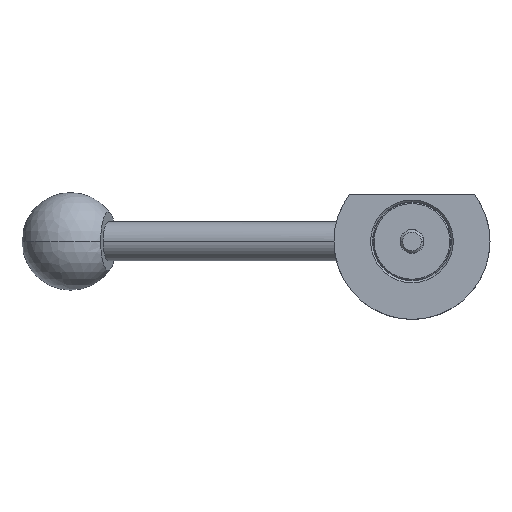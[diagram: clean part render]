
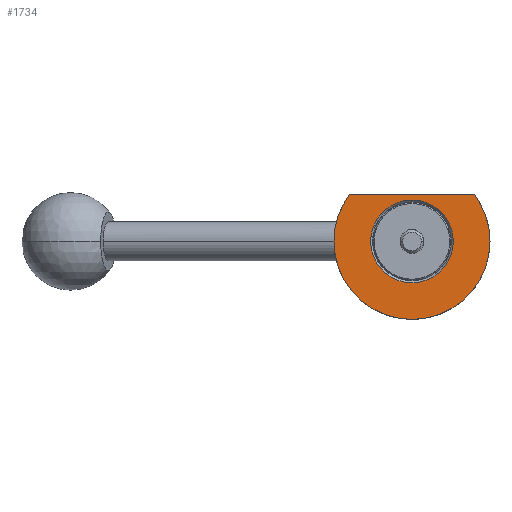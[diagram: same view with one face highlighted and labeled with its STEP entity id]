
A CAD part, front view. The second image highlights one B-rep face of the part: STEP entity #1734.
In plain terms, the highlighted planar face has unit normal (0, -1, 0).
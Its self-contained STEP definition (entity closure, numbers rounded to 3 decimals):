
#58 = DIRECTION ( 'NONE',  ( -1., 0., 0. ) ) ;
#70 = CARTESIAN_POINT ( 'NONE',  ( -10.6, -10., 11.999 ) ) ;
#90 = VECTOR ( 'NONE', #226, 1000. ) ;
#99 = FACE_OUTER_BOUND ( 'NONE', #1891, .T. ) ;
#159 = AXIS2_PLACEMENT_3D ( 'NONE', #829, #1737, #58 ) ;
#188 = DIRECTION ( 'NONE',  ( 0., 1., 0. ) ) ;
#226 = DIRECTION ( 'NONE',  ( -1., 0., 0. ) ) ;
#285 = ORIENTED_EDGE ( 'NONE', *, *, #807, .T. ) ;
#328 = EDGE_CURVE ( 'NONE', #1831, #1282, #702, .T. ) ;
#376 = DIRECTION ( 'NONE',  ( -1., 0., 0. ) ) ;
#524 = DIRECTION ( 'NONE',  ( 0., 1., 0. ) ) ;
#611 = ORIENTED_EDGE ( 'NONE', *, *, #1115, .F. ) ;
#693 = CARTESIAN_POINT ( 'NONE',  ( 0., -10., 0. ) ) ;
#702 = CIRCLE ( 'NONE', #1280, 20. ) ;
#719 = PLANE ( 'NONE',  #1848 ) ;
#733 = FACE_BOUND ( 'NONE', #1216, .T. ) ;
#800 = AXIS2_PLACEMENT_3D ( 'NONE', #1849, #2014, #1072 ) ;
#807 = EDGE_CURVE ( 'NONE', #1025, #1282, #1470, .T. ) ;
#816 = ORIENTED_EDGE ( 'NONE', *, *, #1388, .T. ) ;
#829 = CARTESIAN_POINT ( 'NONE',  ( 0., -10., 0. ) ) ;
#837 = DIRECTION ( 'NONE',  ( 0., 1., 0. ) ) ;
#879 = DIRECTION ( 'NONE',  ( -1., 0., 0. ) ) ;
#911 = AXIS2_PLACEMENT_3D ( 'NONE', #693, #837, #879 ) ;
#996 = AXIS2_PLACEMENT_3D ( 'NONE', #1927, #524, #376 ) ;
#1012 = CARTESIAN_POINT ( 'NONE',  ( -16.001, -10., 11.999 ) ) ;
#1025 = VERTEX_POINT ( 'NONE', #1568 ) ;
#1072 = DIRECTION ( 'NONE',  ( -1., 0., 0. ) ) ;
#1076 = CIRCLE ( 'NONE', #800, 20. ) ;
#1108 = ORIENTED_EDGE ( 'NONE', *, *, #1265, .T. ) ;
#1115 = EDGE_CURVE ( 'NONE', #1025, #1607, #1422, .T. ) ;
#1138 = ORIENTED_EDGE ( 'NONE', *, *, #328, .F. ) ;
#1155 = CARTESIAN_POINT ( 'NONE',  ( 20., -10., 0. ) ) ;
#1216 = EDGE_LOOP ( 'NONE', ( #1108, #816 ) ) ;
#1265 = EDGE_CURVE ( 'NONE', #2006, #1710, #1323, .T. ) ;
#1280 = AXIS2_PLACEMENT_3D ( 'NONE', #1412, #188, #1903 ) ;
#1282 = VERTEX_POINT ( 'NONE', #1012 ) ;
#1323 = CIRCLE ( 'NONE', #911, 10.6 ) ;
#1388 = EDGE_CURVE ( 'NONE', #1710, #2006, #1877, .T. ) ;
#1412 = CARTESIAN_POINT ( 'NONE',  ( 0., -10., 0. ) ) ;
#1422 = CIRCLE ( 'NONE', #159, 20. ) ;
#1463 = EDGE_CURVE ( 'NONE', #1607, #1831, #1076, .T. ) ;
#1470 = LINE ( 'NONE', #70, #90 ) ;
#1568 = CARTESIAN_POINT ( 'NONE',  ( 16.001, -10., 11.999 ) ) ;
#1607 = VERTEX_POINT ( 'NONE', #1155 ) ;
#1640 = DIRECTION ( 'NONE',  ( 1., 0., 0. ) ) ;
#1644 = ORIENTED_EDGE ( 'NONE', *, *, #1463, .F. ) ;
#1670 = CARTESIAN_POINT ( 'NONE',  ( -10.6, -10., 0. ) ) ;
#1701 = CARTESIAN_POINT ( 'NONE',  ( 10.6, -10., 0. ) ) ;
#1710 = VERTEX_POINT ( 'NONE', #1947 ) ;
#1734 = ADVANCED_FACE ( 'NONE', ( #733, #99 ), #719, .T. ) ;
#1737 = DIRECTION ( 'NONE',  ( 0., 1., 0. ) ) ;
#1793 = CARTESIAN_POINT ( 'NONE',  ( -20., -10., 0. ) ) ;
#1831 = VERTEX_POINT ( 'NONE', #1793 ) ;
#1848 = AXIS2_PLACEMENT_3D ( 'NONE', #1670, #1923, #1640 ) ;
#1849 = CARTESIAN_POINT ( 'NONE',  ( 0., -10., 0. ) ) ;
#1877 = CIRCLE ( 'NONE', #996, 10.6 ) ;
#1891 = EDGE_LOOP ( 'NONE', ( #611, #285, #1138, #1644 ) ) ;
#1903 = DIRECTION ( 'NONE',  ( -1., 0., 0. ) ) ;
#1923 = DIRECTION ( 'NONE',  ( 0., -1., 0. ) ) ;
#1927 = CARTESIAN_POINT ( 'NONE',  ( 0., -10., 0. ) ) ;
#1947 = CARTESIAN_POINT ( 'NONE',  ( -10.6, -10., 0. ) ) ;
#2006 = VERTEX_POINT ( 'NONE', #1701 ) ;
#2014 = DIRECTION ( 'NONE',  ( 0., 1., 0. ) ) ;
